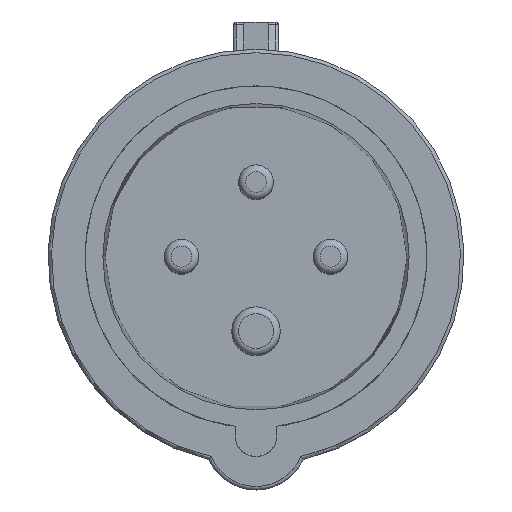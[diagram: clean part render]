
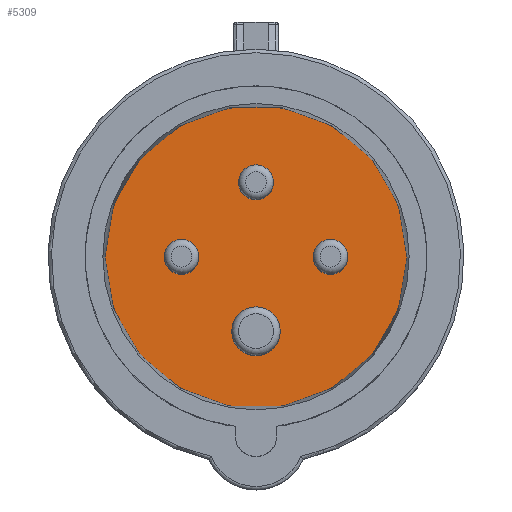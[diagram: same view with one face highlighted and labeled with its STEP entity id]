
A CAD part, top view. The second image highlights one B-rep face of the part: STEP entity #5309.
In plain terms, the highlighted planar face has unit normal (0, 0, 1).
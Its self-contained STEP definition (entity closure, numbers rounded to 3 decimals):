
#1065 = VERTEX_POINT('',#1066);
#1066 = CARTESIAN_POINT('',(21.801,0.,5.3));
#1072 = EDGE_CURVE('',#1073,#1065,#1075,.T.);
#1073 = VERTEX_POINT('',#1074);
#1074 = CARTESIAN_POINT('',(-21.801,0.,5.3));
#1075 = CIRCLE('',#1076,21.801);
#1076 = AXIS2_PLACEMENT_3D('',#1077,#1078,#1079);
#1077 = CARTESIAN_POINT('',(0.,0.,5.3));
#1078 = DIRECTION('',(0.,0.,-1.));
#1079 = DIRECTION('',(1.,0.,0.));
#1103 = EDGE_CURVE('',#1065,#1073,#1104,.T.);
#1104 = CIRCLE('',#1105,21.801);
#1105 = AXIS2_PLACEMENT_3D('',#1106,#1107,#1108);
#1106 = CARTESIAN_POINT('',(0.,0.,5.3));
#1107 = DIRECTION('',(0.,0.,-1.));
#1108 = DIRECTION('',(1.,0.,0.));
#5309 = ADVANCED_FACE('',(#5310),#5314,.T.);
#5310 = FACE_BOUND('',#5311,.T.);
#5311 = EDGE_LOOP('',(#5312,#5313));
#5312 = ORIENTED_EDGE('',*,*,#1072,.F.);
#5313 = ORIENTED_EDGE('',*,*,#1103,.F.);
#5314 = PLANE('',#5315);
#5315 = AXIS2_PLACEMENT_3D('',#5316,#5317,#5318);
#5316 = CARTESIAN_POINT('',(0.,0.,5.3));
#5317 = DIRECTION('',(0.,0.,1.));
#5318 = DIRECTION('',(1.,0.,-0.));
